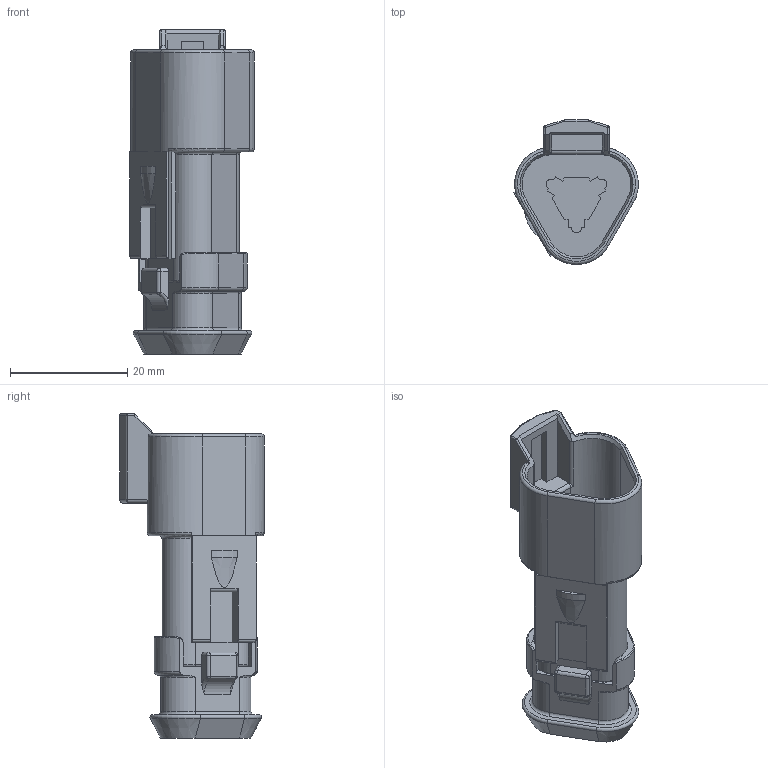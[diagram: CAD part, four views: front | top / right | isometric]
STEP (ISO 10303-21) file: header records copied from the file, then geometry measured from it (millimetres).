
FILE_DESCRIPTION((''),'2;1');
FILE_NAME('C-DT04-3P-E008','2013-06-13T',('workeradm'),('Tyco Electronics Ltd.'),'PRO/ENGINEER BY PARAMETRIC TECHNOLOGY CORPORATION, 2011490','PRO/ENGINEER BY PARAMETRIC TECHNOLOGY CORPORATION, 2011490','');
FILE_SCHEMA(('AUTOMOTIVE_DESIGN { 1 0 10303 214 1 1 1 1 }'));
Length unit declared in the file: millimetre
Products named in the file (1): C-DT04-3P-E008
Bounding box: 21.32 x 24.72 x 55.4 mm (x, y, z)
Volume: 7746.7 mm3; surface area: 6510.7 mm2
Topology: 1 solids, 1 shells, 393 faces, 1002 edges, 627 vertices
Faces by surface type: plane 210, cylinder 101, torus 43, bspline 24, sphere 8, cone 7
Entity records: 16483 total; most frequent: CARTESIAN_POINT 3680, ORIENTED_EDGE 2004, DIRECTION 1908, PRESENTATION_STYLE_ASSIGNMENT 1003, STYLED_ITEM 1003, CURVE_STYLE 1002, EDGE_CURVE 1002, VECTOR 646
